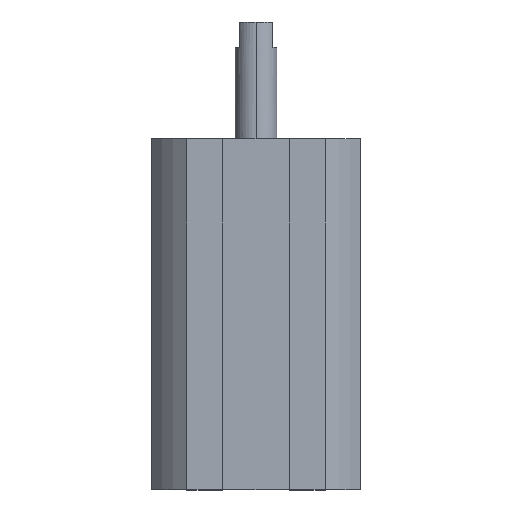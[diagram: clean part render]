
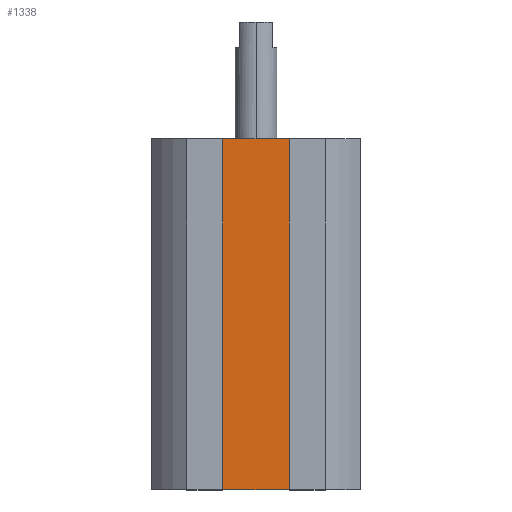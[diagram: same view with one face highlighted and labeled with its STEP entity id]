
A CAD part, top view. The second image highlights one B-rep face of the part: STEP entity #1338.
In plain terms, the highlighted planar face has unit normal (0, 0, 1).
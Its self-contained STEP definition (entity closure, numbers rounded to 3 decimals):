
#88 = AXIS2_PLACEMENT_3D ( 'NONE', #1838, #1187, #326 ) ;
#92 = CARTESIAN_POINT ( 'NONE',  ( 0., -42., 7.8 ) ) ;
#110 = VECTOR ( 'NONE', #265, 1000. ) ;
#144 = CARTESIAN_POINT ( 'NONE',  ( 4., 0., 7.8 ) ) ;
#265 = DIRECTION ( 'NONE',  ( 1., 0., 0. ) ) ;
#326 = DIRECTION ( 'NONE',  ( 1., 0., 0. ) ) ;
#426 = EDGE_CURVE ( 'NONE', #2164, #548, #2222, .T. ) ;
#427 = CARTESIAN_POINT ( 'NONE',  ( -4., -42., 7.8 ) ) ;
#519 = VECTOR ( 'NONE', #1906, 1000. ) ;
#548 = VERTEX_POINT ( 'NONE', #144 ) ;
#550 = CARTESIAN_POINT ( 'NONE',  ( -4., -42., 7.8 ) ) ;
#637 = EDGE_CURVE ( 'NONE', #1969, #2164, #2218, .T. ) ;
#640 = CARTESIAN_POINT ( 'NONE',  ( 4., -42., 7.8 ) ) ;
#708 = ORIENTED_EDGE ( 'NONE', *, *, #756, .F. ) ;
#756 = EDGE_CURVE ( 'NONE', #1211, #548, #1306, .T. ) ;
#935 = ORIENTED_EDGE ( 'NONE', *, *, #637, .T. ) ;
#1018 = CARTESIAN_POINT ( 'NONE',  ( 4., -42., 7.8 ) ) ;
#1026 = ORIENTED_EDGE ( 'NONE', *, *, #1715, .F. ) ;
#1150 = DIRECTION ( 'NONE',  ( 0., 1., 0. ) ) ;
#1187 = DIRECTION ( 'NONE',  ( 0., 0., 1. ) ) ;
#1203 = VECTOR ( 'NONE', #1509, 1000. ) ;
#1211 = VERTEX_POINT ( 'NONE', #1631 ) ;
#1222 = ORIENTED_EDGE ( 'NONE', *, *, #426, .T. ) ;
#1306 = LINE ( 'NONE', #1528, #1203 ) ;
#1338 = ADVANCED_FACE ( 'NONE', ( #1556 ), #1522, .T. ) ;
#1439 = LINE ( 'NONE', #550, #519 ) ;
#1440 = VECTOR ( 'NONE', #1150, 1000. ) ;
#1509 = DIRECTION ( 'NONE',  ( 1., 0., 0. ) ) ;
#1522 = PLANE ( 'NONE',  #88 ) ;
#1528 = CARTESIAN_POINT ( 'NONE',  ( 0., 0., 7.8 ) ) ;
#1556 = FACE_OUTER_BOUND ( 'NONE', #1964, .T. ) ;
#1631 = CARTESIAN_POINT ( 'NONE',  ( -4., 0., 7.8 ) ) ;
#1715 = EDGE_CURVE ( 'NONE', #1969, #1211, #1439, .T. ) ;
#1838 = CARTESIAN_POINT ( 'NONE',  ( 0., -42., 7.8 ) ) ;
#1906 = DIRECTION ( 'NONE',  ( 0., 1., 0. ) ) ;
#1964 = EDGE_LOOP ( 'NONE', ( #708, #1026, #935, #1222 ) ) ;
#1969 = VERTEX_POINT ( 'NONE', #427 ) ;
#2164 = VERTEX_POINT ( 'NONE', #1018 ) ;
#2218 = LINE ( 'NONE', #92, #110 ) ;
#2222 = LINE ( 'NONE', #640, #1440 ) ;
